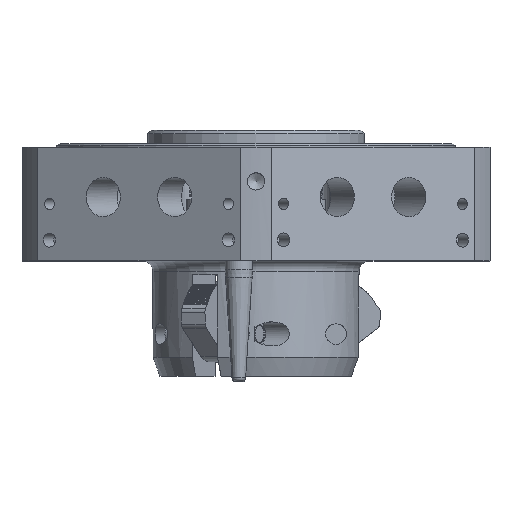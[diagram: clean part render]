
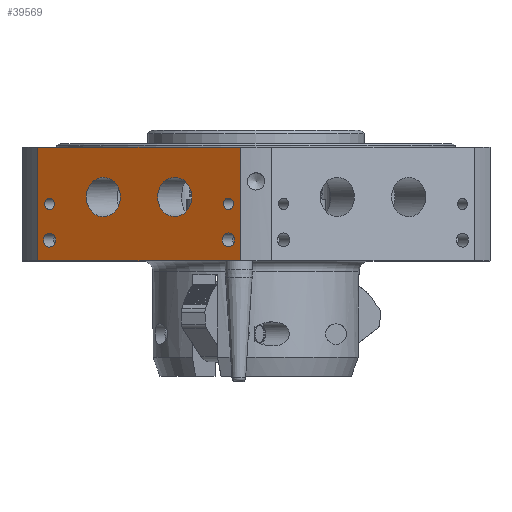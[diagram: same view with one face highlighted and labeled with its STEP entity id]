
A CAD part, top view. The second image highlights one B-rep face of the part: STEP entity #39569.
In plain terms, the highlighted planar face has unit normal (-0.5, 0, 0.866).
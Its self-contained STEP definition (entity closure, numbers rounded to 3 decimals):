
#330 = EDGE_LOOP ( 'NONE', ( #33272 ) ) ;
#990 = AXIS2_PLACEMENT_3D ( 'NONE', #33022, #47071, #14816 ) ;
#1231 = EDGE_CURVE ( 'NONE', #31594, #31594, #30664, .T. ) ;
#1467 = CIRCLE ( 'NONE', #28560, 1.65 ) ;
#2910 = DIRECTION ( 'NONE',  ( 0.866, 0., 0.5 ) ) ;
#2971 = DIRECTION ( 'NONE',  ( -0.5, 0., 0.866 ) ) ;
#3448 = CARTESIAN_POINT ( 'NONE',  ( -59.981, 6., 43.89 ) ) ;
#3477 = FACE_BOUND ( 'NONE', #46442, .T. ) ;
#4141 = VECTOR ( 'NONE', #41102, 1000. ) ;
#4535 = CARTESIAN_POINT ( 'NONE',  ( -4.606, 33., 75.86 ) ) ;
#4542 = LINE ( 'NONE', #4535, #40841 ) ;
#4564 = DIRECTION ( 'NONE',  ( 0.866, 0., 0.5 ) ) ;
#4571 = DIRECTION ( 'NONE',  ( -0.5, 0., 0.866 ) ) ;
#4574 = CARTESIAN_POINT ( 'NONE',  ( -8.019, 6., 73.89 ) ) ;
#5344 = CARTESIAN_POINT ( 'NONE',  ( -4.606, 0., 75.86 ) ) ;
#6816 = DIRECTION ( 'NONE',  ( 0.866, 0., 0.5 ) ) ;
#7208 = AXIS2_PLACEMENT_3D ( 'NONE', #3448, #2971, #2910 ) ;
#7811 = CARTESIAN_POINT ( 'NONE',  ( -44.392, 18.5, 52.89 ) ) ;
#7864 = VERTEX_POINT ( 'NONE', #22722 ) ;
#8117 = AXIS2_PLACEMENT_3D ( 'NONE', #18648, #18603, #18579 ) ;
#8290 = CARTESIAN_POINT ( 'NONE',  ( -63.394, 0., 41.919 ) ) ;
#9879 = AXIS2_PLACEMENT_3D ( 'NONE', #4574, #4571, #4564 ) ;
#11024 = VECTOR ( 'NONE', #40986, 1000. ) ;
#11060 = CARTESIAN_POINT ( 'NONE',  ( -4.606, 33., 75.86 ) ) ;
#11298 = VERTEX_POINT ( 'NONE', #26045 ) ;
#11957 = LINE ( 'NONE', #26684, #11024 ) ;
#11967 = EDGE_LOOP ( 'NONE', ( #33053 ) ) ;
#13548 = EDGE_CURVE ( 'NONE', #21572, #21572, #28091, .T. ) ;
#14150 = EDGE_LOOP ( 'NONE', ( #33393 ) ) ;
#14252 = EDGE_CURVE ( 'NONE', #31079, #29416, #41143, .T. ) ;
#14425 = VECTOR ( 'NONE', #6816, 1000. ) ;
#14722 = FACE_BOUND ( 'NONE', #14150, .T. ) ;
#14816 = DIRECTION ( 'NONE',  ( 0.866, 0., 0.5 ) ) ;
#15169 = CIRCLE ( 'NONE', #41670, 5.723 ) ;
#15686 = EDGE_CURVE ( 'NONE', #11298, #11298, #28953, .T. ) ;
#16892 = EDGE_CURVE ( 'NONE', #23914, #39107, #4542, .T. ) ;
#18429 = FACE_BOUND ( 'NONE', #11967, .T. ) ;
#18579 = DIRECTION ( 'NONE',  ( 0.866, 0., 0.5 ) ) ;
#18603 = DIRECTION ( 'NONE',  ( -0.5, 0., 0.866 ) ) ;
#18648 = CARTESIAN_POINT ( 'NONE',  ( -23.608, 18.5, 64.89 ) ) ;
#18793 = CARTESIAN_POINT ( 'NONE',  ( -4.606, 33., 75.86 ) ) ;
#21572 = VERTEX_POINT ( 'NONE', #36014 ) ;
#21582 = VERTEX_POINT ( 'NONE', #36023 ) ;
#22039 = CIRCLE ( 'NONE', #990, 1.65 ) ;
#22672 = DIRECTION ( 'NONE',  ( -0.5, 0., 0.866 ) ) ;
#22722 = CARTESIAN_POINT ( 'NONE',  ( -39.436, 18.5, 55.751 ) ) ;
#23914 = VERTEX_POINT ( 'NONE', #18793 ) ;
#25263 = LINE ( 'NONE', #39604, #14425 ) ;
#25820 = DIRECTION ( 'NONE',  ( 0.5, 0., -0.866 ) ) ;
#26045 = CARTESIAN_POINT ( 'NONE',  ( -18.652, 18.5, 67.751 ) ) ;
#26684 = CARTESIAN_POINT ( 'NONE',  ( -4.606, 0., 75.86 ) ) ;
#27432 = AXIS2_PLACEMENT_3D ( 'NONE', #11060, #25820, #40141 ) ;
#28091 = CIRCLE ( 'NONE', #7208, 2.031 ) ;
#28560 = AXIS2_PLACEMENT_3D ( 'NONE', #37804, #37630, #37573 ) ;
#28953 = CIRCLE ( 'NONE', #8117, 5.722 ) ;
#29380 = FACE_OUTER_BOUND ( 'NONE', #33138, .T. ) ;
#29416 = VERTEX_POINT ( 'NONE', #8290 ) ;
#30664 = CIRCLE ( 'NONE', #9879, 2.031 ) ;
#31079 = VERTEX_POINT ( 'NONE', #45635 ) ;
#31594 = VERTEX_POINT ( 'NONE', #45702 ) ;
#32513 = VERTEX_POINT ( 'NONE', #46588 ) ;
#32924 = ORIENTED_EDGE ( 'NONE', *, *, #44286, .F. ) ;
#32931 = FACE_BOUND ( 'NONE', #35481, .T. ) ;
#33022 = CARTESIAN_POINT ( 'NONE',  ( -8.019, 16.5, 73.89 ) ) ;
#33049 = ORIENTED_EDGE ( 'NONE', *, *, #15686, .F. ) ;
#33053 = ORIENTED_EDGE ( 'NONE', *, *, #33395, .F. ) ;
#33138 = EDGE_LOOP ( 'NONE', ( #33462, #33575, #33615, #33690 ) ) ;
#33222 = ORIENTED_EDGE ( 'NONE', *, *, #42201, .F. ) ;
#33272 = ORIENTED_EDGE ( 'NONE', *, *, #13548, .F. ) ;
#33393 = ORIENTED_EDGE ( 'NONE', *, *, #1231, .F. ) ;
#33395 = EDGE_CURVE ( 'NONE', #32513, #32513, #1467, .T. ) ;
#33462 = ORIENTED_EDGE ( 'NONE', *, *, #46672, .T. ) ;
#33575 = ORIENTED_EDGE ( 'NONE', *, *, #16892, .F. ) ;
#33615 = ORIENTED_EDGE ( 'NONE', *, *, #41098, .F. ) ;
#33690 = ORIENTED_EDGE ( 'NONE', *, *, #14252, .T. ) ;
#35481 = EDGE_LOOP ( 'NONE', ( #33222 ) ) ;
#36014 = CARTESIAN_POINT ( 'NONE',  ( -58.222, 6., 44.905 ) ) ;
#36023 = CARTESIAN_POINT ( 'NONE',  ( -6.59, 16.5, 74.715 ) ) ;
#36486 = FACE_BOUND ( 'NONE', #44093, .T. ) ;
#37117 = DIRECTION ( 'NONE',  ( 0.866, 0., 0.5 ) ) ;
#37481 = DIRECTION ( 'NONE',  ( 0., -1., 0. ) ) ;
#37573 = DIRECTION ( 'NONE',  ( 0.866, 0., 0.5 ) ) ;
#37630 = DIRECTION ( 'NONE',  ( -0.5, 0., 0.866 ) ) ;
#37804 = CARTESIAN_POINT ( 'NONE',  ( -59.981, 16.5, 43.89 ) ) ;
#39107 = VERTEX_POINT ( 'NONE', #5344 ) ;
#39569 = ADVANCED_FACE ( 'NONE', ( #36486, #3477, #18429, #32931, #46986, #14722, #29380 ), #43572, .F. ) ;
#39604 = CARTESIAN_POINT ( 'NONE',  ( -4.606, 33., 75.86 ) ) ;
#40141 = DIRECTION ( 'NONE',  ( -0.866, 0., -0.5 ) ) ;
#40841 = VECTOR ( 'NONE', #37481, 1000. ) ;
#40986 = DIRECTION ( 'NONE',  ( 0.866, 0., 0.5 ) ) ;
#41098 = EDGE_CURVE ( 'NONE', #31079, #23914, #25263, .T. ) ;
#41102 = DIRECTION ( 'NONE',  ( 0., -1., 0. ) ) ;
#41111 = CARTESIAN_POINT ( 'NONE',  ( -63.394, 33., 41.919 ) ) ;
#41143 = LINE ( 'NONE', #41111, #4141 ) ;
#41670 = AXIS2_PLACEMENT_3D ( 'NONE', #7811, #22672, #37117 ) ;
#42201 = EDGE_CURVE ( 'NONE', #21582, #21582, #22039, .T. ) ;
#43572 = PLANE ( 'NONE',  #27432 ) ;
#44093 = EDGE_LOOP ( 'NONE', ( #32924 ) ) ;
#44286 = EDGE_CURVE ( 'NONE', #7864, #7864, #15169, .T. ) ;
#45635 = CARTESIAN_POINT ( 'NONE',  ( -63.394, 33., 41.919 ) ) ;
#45702 = CARTESIAN_POINT ( 'NONE',  ( -6.26, 6., 74.905 ) ) ;
#46442 = EDGE_LOOP ( 'NONE', ( #33049 ) ) ;
#46588 = CARTESIAN_POINT ( 'NONE',  ( -58.552, 16.5, 44.715 ) ) ;
#46672 = EDGE_CURVE ( 'NONE', #29416, #39107, #11957, .T. ) ;
#46986 = FACE_BOUND ( 'NONE', #330, .T. ) ;
#47071 = DIRECTION ( 'NONE',  ( -0.5, 0., 0.866 ) ) ;
